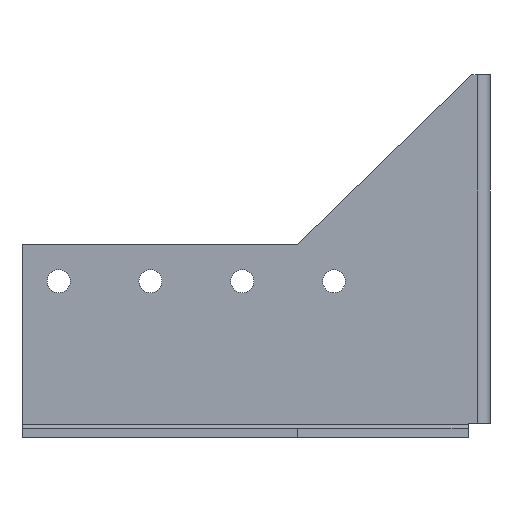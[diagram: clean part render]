
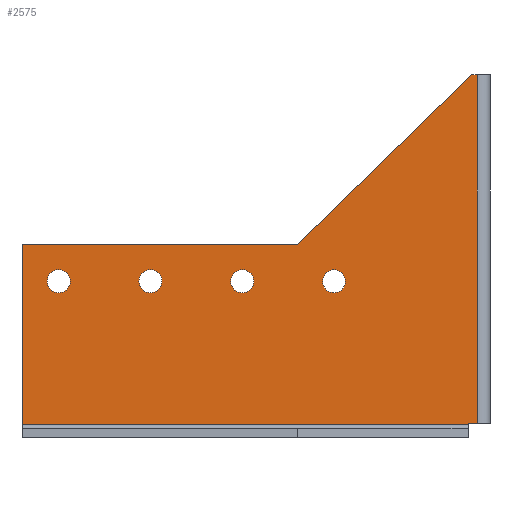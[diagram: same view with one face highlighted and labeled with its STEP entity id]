
A CAD part, left-side view. The second image highlights one B-rep face of the part: STEP entity #2575.
In plain terms, the highlighted planar face has unit normal (-1, 0, 0).
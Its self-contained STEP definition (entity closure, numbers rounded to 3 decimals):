
#1 = DIRECTION ( 'NONE',  ( -1., 0., 0. ) ) ;
#15 = VERTEX_POINT ( 'NONE', #1887 ) ;
#19 = CIRCLE ( 'NONE', #3221, 2.5 ) ;
#26 = CIRCLE ( 'NONE', #2433, 2.5 ) ;
#35 = CARTESIAN_POINT ( 'NONE',  ( 97.999, 88.001, -10.5 ) ) ;
#42 = CARTESIAN_POINT ( 'NONE',  ( 97.999, 76.001, 0. ) ) ;
#72 = EDGE_CURVE ( 'NONE', #613, #2439, #1952, .T. ) ;
#91 = ORIENTED_EDGE ( 'NONE', *, *, #834, .F. ) ;
#97 = CARTESIAN_POINT ( 'NONE',  ( 97.999, 88.001, -8. ) ) ;
#133 = ORIENTED_EDGE ( 'NONE', *, *, #579, .T. ) ;
#174 = VECTOR ( 'NONE', #319, 1000. ) ;
#195 = DIRECTION ( 'NONE',  ( 0., 0., 1. ) ) ;
#222 = VECTOR ( 'NONE', #1760, 1000. ) ;
#234 = PLANE ( 'NONE',  #1534 ) ;
#256 = ORIENTED_EDGE ( 'NONE', *, *, #544, .F. ) ;
#258 = VECTOR ( 'NONE', #409, 1000. ) ;
#273 = CARTESIAN_POINT ( 'NONE',  ( 97.999, 36.737, 37. ) ) ;
#285 = CARTESIAN_POINT ( 'NONE',  ( 97.999, 38.001, 37. ) ) ;
#319 = DIRECTION ( 'NONE',  ( 0., 1., 0. ) ) ;
#327 = ORIENTED_EDGE ( 'NONE', *, *, #2482, .F. ) ;
#336 = VECTOR ( 'NONE', #2319, 1000. ) ;
#357 = EDGE_CURVE ( 'NONE', #1118, #15, #2964, .T. ) ;
#372 = CIRCLE ( 'NONE', #2119, 2.5 ) ;
#402 = CARTESIAN_POINT ( 'NONE',  ( 97.999, 36.737, -39. ) ) ;
#409 = DIRECTION ( 'NONE',  ( 0., 0., -1. ) ) ;
#434 = CARTESIAN_POINT ( 'NONE',  ( 97.999, 88.001, -8. ) ) ;
#439 = CARTESIAN_POINT ( 'NONE',  ( 97.999, 108.001, -8. ) ) ;
#466 = CIRCLE ( 'NONE', #2294, 2.5 ) ;
#470 = DIRECTION ( 'NONE',  ( 0., 0., 1. ) ) ;
#478 = DIRECTION ( 'NONE',  ( 0., 0., -1. ) ) ;
#544 = EDGE_CURVE ( 'NONE', #15, #1118, #19, .T. ) ;
#579 = EDGE_CURVE ( 'NONE', #2605, #613, #2375, .T. ) ;
#611 = ORIENTED_EDGE ( 'NONE', *, *, #357, .F. ) ;
#613 = VERTEX_POINT ( 'NONE', #2745 ) ;
#625 = CARTESIAN_POINT ( 'NONE',  ( 97.999, 68.001, -8. ) ) ;
#636 = CARTESIAN_POINT ( 'NONE',  ( 97.999, 128.001, -8. ) ) ;
#669 = DIRECTION ( 'NONE',  ( 0., 0., 1. ) ) ;
#681 = CARTESIAN_POINT ( 'NONE',  ( 97.999, 38.779, -39.263 ) ) ;
#717 = CARTESIAN_POINT ( 'NONE',  ( 97.999, 108.001, -10.5 ) ) ;
#756 = EDGE_CURVE ( 'NONE', #1426, #1865, #372, .T. ) ;
#761 = VERTEX_POINT ( 'NONE', #681 ) ;
#813 = EDGE_CURVE ( 'NONE', #1978, #847, #970, .T. ) ;
#834 = EDGE_CURVE ( 'NONE', #847, #1978, #2488, .T. ) ;
#847 = VERTEX_POINT ( 'NONE', #858 ) ;
#858 = CARTESIAN_POINT ( 'NONE',  ( 97.999, 68.001, -5.5 ) ) ;
#866 = DIRECTION ( 'NONE',  ( 0., 0., 1. ) ) ;
#949 = EDGE_CURVE ( 'NONE', #761, #2439, #2526, .T. ) ;
#964 = DIRECTION ( 'NONE',  ( 0., 0., 1. ) ) ;
#970 = CIRCLE ( 'NONE', #2387, 2.5 ) ;
#974 = VECTOR ( 'NONE', #1063, 1000. ) ;
#991 = DIRECTION ( 'NONE',  ( 0., 0., 1. ) ) ;
#996 = CARTESIAN_POINT ( 'NONE',  ( 97.999, -123.999, 0. ) ) ;
#1001 = ORIENTED_EDGE ( 'NONE', *, *, #949, .F. ) ;
#1054 = CARTESIAN_POINT ( 'NONE',  ( 97.999, 68.001, -10.5 ) ) ;
#1059 = CARTESIAN_POINT ( 'NONE',  ( 97.999, 128.001, -5.5 ) ) ;
#1061 = CARTESIAN_POINT ( 'NONE',  ( 97.999, 38.779, -39. ) ) ;
#1063 = DIRECTION ( 'NONE',  ( 0., 1., 0. ) ) ;
#1118 = VERTEX_POINT ( 'NONE', #1059 ) ;
#1134 = VECTOR ( 'NONE', #2903, 1000. ) ;
#1147 = CARTESIAN_POINT ( 'NONE',  ( 97.999, 38.779, 0. ) ) ;
#1227 = CARTESIAN_POINT ( 'NONE',  ( 97.999, 108.001, -8. ) ) ;
#1258 = CIRCLE ( 'NONE', #2808, 2.5 ) ;
#1297 = FACE_BOUND ( 'NONE', #2720, .T. ) ;
#1310 = ORIENTED_EDGE ( 'NONE', *, *, #2435, .F. ) ;
#1347 = ORIENTED_EDGE ( 'NONE', *, *, #3218, .T. ) ;
#1352 = VERTEX_POINT ( 'NONE', #402 ) ;
#1353 = DIRECTION ( 'NONE',  ( 0., 0., 1. ) ) ;
#1390 = ORIENTED_EDGE ( 'NONE', *, *, #2667, .T. ) ;
#1407 = FACE_BOUND ( 'NONE', #2868, .T. ) ;
#1420 = EDGE_CURVE ( 'NONE', #761, #2086, #2538, .T. ) ;
#1426 = VERTEX_POINT ( 'NONE', #2389 ) ;
#1443 = EDGE_LOOP ( 'NONE', ( #1310, #1390, #1347, #133, #1702, #1001, #1825, #327 ) ) ;
#1460 = DIRECTION ( 'NONE',  ( -1., 0., 0. ) ) ;
#1487 = FACE_OUTER_BOUND ( 'NONE', #1443, .T. ) ;
#1500 = CARTESIAN_POINT ( 'NONE',  ( 97.999, 88.001, -5.5 ) ) ;
#1504 = AXIS2_PLACEMENT_3D ( 'NONE', #625, #2357, #866 ) ;
#1512 = CARTESIAN_POINT ( 'NONE',  ( 97.999, -123.999, -39. ) ) ;
#1530 = EDGE_CURVE ( 'NONE', #2532, #2597, #466, .T. ) ;
#1534 = AXIS2_PLACEMENT_3D ( 'NONE', #996, #2744, #478 ) ;
#1556 = FACE_BOUND ( 'NONE', #3234, .T. ) ;
#1681 = CARTESIAN_POINT ( 'NONE',  ( 97.999, 36.737, 0. ) ) ;
#1697 = CARTESIAN_POINT ( 'NONE',  ( 97.999, 136.001, -39.263 ) ) ;
#1702 = ORIENTED_EDGE ( 'NONE', *, *, #72, .T. ) ;
#1760 = DIRECTION ( 'NONE',  ( 0., 1., 0. ) ) ;
#1791 = ORIENTED_EDGE ( 'NONE', *, *, #2110, .F. ) ;
#1825 = ORIENTED_EDGE ( 'NONE', *, *, #1420, .T. ) ;
#1865 = VERTEX_POINT ( 'NONE', #717 ) ;
#1887 = CARTESIAN_POINT ( 'NONE',  ( 97.999, 128.001, -10.5 ) ) ;
#1909 = VERTEX_POINT ( 'NONE', #285 ) ;
#1917 = LINE ( 'NONE', #2030, #974 ) ;
#1939 = DIRECTION ( 'NONE',  ( -1., 0., 0. ) ) ;
#1952 = LINE ( 'NONE', #2663, #258 ) ;
#1978 = VERTEX_POINT ( 'NONE', #1054 ) ;
#2030 = CARTESIAN_POINT ( 'NONE',  ( 97.999, -25.999, 37. ) ) ;
#2042 = VERTEX_POINT ( 'NONE', #273 ) ;
#2086 = VERTEX_POINT ( 'NONE', #1061 ) ;
#2108 = CARTESIAN_POINT ( 'NONE',  ( 97.999, -123.999, -39.263 ) ) ;
#2110 = EDGE_CURVE ( 'NONE', #2597, #2532, #1258, .T. ) ;
#2119 = AXIS2_PLACEMENT_3D ( 'NONE', #439, #1460, #195 ) ;
#2163 = DIRECTION ( 'NONE',  ( -1., 0., 0. ) ) ;
#2201 = CARTESIAN_POINT ( 'NONE',  ( 97.999, 68.001, -8. ) ) ;
#2248 = DIRECTION ( 'NONE',  ( 0., 1., 0. ) ) ;
#2268 = DIRECTION ( 'NONE',  ( -1., 0., 0. ) ) ;
#2294 = AXIS2_PLACEMENT_3D ( 'NONE', #434, #3184, #3212 ) ;
#2319 = DIRECTION ( 'NONE',  ( 0., 0.716, -0.698 ) ) ;
#2331 = LINE ( 'NONE', #2569, #336 ) ;
#2357 = DIRECTION ( 'NONE',  ( -1., 0., 0. ) ) ;
#2360 = EDGE_LOOP ( 'NONE', ( #2908, #1791 ) ) ;
#2365 = ORIENTED_EDGE ( 'NONE', *, *, #813, .F. ) ;
#2375 = LINE ( 'NONE', #3254, #222 ) ;
#2387 = AXIS2_PLACEMENT_3D ( 'NONE', #2201, #1939, #964 ) ;
#2389 = CARTESIAN_POINT ( 'NONE',  ( 97.999, 108.001, -5.5 ) ) ;
#2433 = AXIS2_PLACEMENT_3D ( 'NONE', #1227, #1, #470 ) ;
#2435 = EDGE_CURVE ( 'NONE', #2042, #1352, #3040, .T. ) ;
#2439 = VERTEX_POINT ( 'NONE', #1697 ) ;
#2482 = EDGE_CURVE ( 'NONE', #1352, #2086, #3121, .T. ) ;
#2488 = CIRCLE ( 'NONE', #1504, 2.5 ) ;
#2512 = EDGE_CURVE ( 'NONE', #1865, #1426, #26, .T. ) ;
#2526 = LINE ( 'NONE', #2108, #174 ) ;
#2532 = VERTEX_POINT ( 'NONE', #1500 ) ;
#2538 = LINE ( 'NONE', #1147, #3123 ) ;
#2569 = CARTESIAN_POINT ( 'NONE',  ( 97.999, 38.001, 37. ) ) ;
#2575 = ADVANCED_FACE ( 'NONE', ( #1487, #1297, #1407, #3206, #1556 ), #234, .F. ) ;
#2597 = VERTEX_POINT ( 'NONE', #35 ) ;
#2605 = VERTEX_POINT ( 'NONE', #42 ) ;
#2621 = VECTOR ( 'NONE', #2248, 1000. ) ;
#2663 = CARTESIAN_POINT ( 'NONE',  ( 97.999, 136.001, 0. ) ) ;
#2667 = EDGE_CURVE ( 'NONE', #2042, #1909, #1917, .T. ) ;
#2720 = EDGE_LOOP ( 'NONE', ( #611, #256 ) ) ;
#2744 = DIRECTION ( 'NONE',  ( 1., 0., 0. ) ) ;
#2745 = CARTESIAN_POINT ( 'NONE',  ( 97.999, 136.001, 0. ) ) ;
#2777 = AXIS2_PLACEMENT_3D ( 'NONE', #636, #2163, #669 ) ;
#2808 = AXIS2_PLACEMENT_3D ( 'NONE', #97, #3058, #1353 ) ;
#2868 = EDGE_LOOP ( 'NONE', ( #3132, #3037 ) ) ;
#2890 = DIRECTION ( 'NONE',  ( 0., 0., 1. ) ) ;
#2903 = DIRECTION ( 'NONE',  ( 0., 0., -1. ) ) ;
#2908 = ORIENTED_EDGE ( 'NONE', *, *, #1530, .F. ) ;
#2964 = CIRCLE ( 'NONE', #2777, 2.5 ) ;
#2999 = CARTESIAN_POINT ( 'NONE',  ( 97.999, 128.001, -8. ) ) ;
#3037 = ORIENTED_EDGE ( 'NONE', *, *, #2512, .F. ) ;
#3040 = LINE ( 'NONE', #1681, #1134 ) ;
#3058 = DIRECTION ( 'NONE',  ( -1., 0., 0. ) ) ;
#3121 = LINE ( 'NONE', #1512, #2621 ) ;
#3123 = VECTOR ( 'NONE', #2890, 1000. ) ;
#3132 = ORIENTED_EDGE ( 'NONE', *, *, #756, .F. ) ;
#3184 = DIRECTION ( 'NONE',  ( -1., 0., 0. ) ) ;
#3206 = FACE_BOUND ( 'NONE', #2360, .T. ) ;
#3212 = DIRECTION ( 'NONE',  ( 0., 0., 1. ) ) ;
#3218 = EDGE_CURVE ( 'NONE', #1909, #2605, #2331, .T. ) ;
#3221 = AXIS2_PLACEMENT_3D ( 'NONE', #2999, #2268, #991 ) ;
#3234 = EDGE_LOOP ( 'NONE', ( #91, #2365 ) ) ;
#3254 = CARTESIAN_POINT ( 'NONE',  ( 97.999, 136.001, 0. ) ) ;
